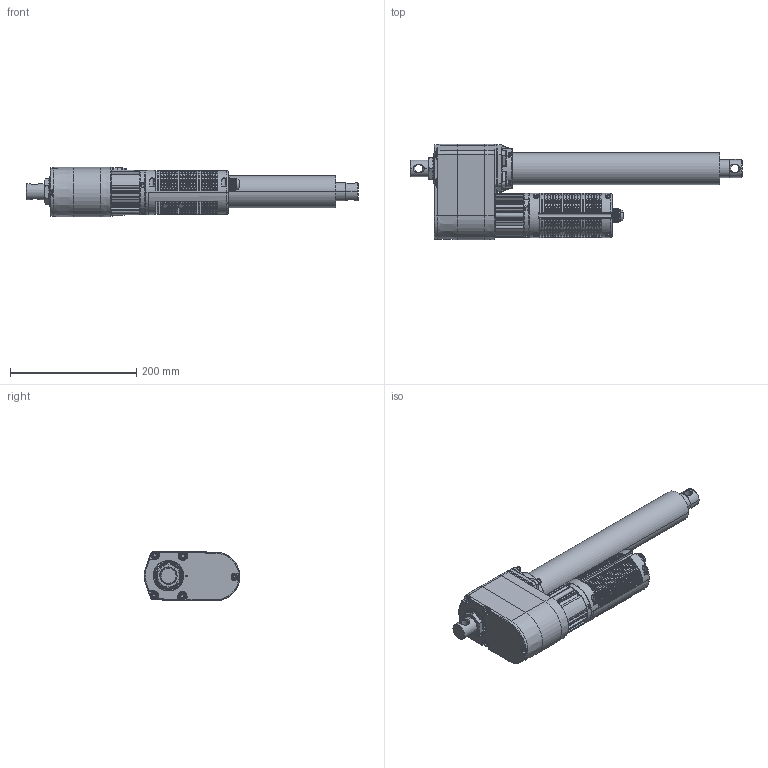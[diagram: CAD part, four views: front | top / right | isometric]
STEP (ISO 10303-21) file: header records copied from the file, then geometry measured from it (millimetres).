
FILE_DESCRIPTION (( 'STEP AP203' ), '1' );
FILE_NAME ('MK7L.STEP', '2025-07-14T02:39:37', ( '' ), ( '' ), 'SwSTEP 2.0', 'SolidWorks 2023', '' );
FILE_SCHEMA (( 'CONFIG_CONTROL_DESIGN' ));
Length unit declared in the file: metre
Products named in the file (3): MK7L; MK7L(沒內管).step; 內管
Assembly tree (2 placements, depth 2):
  MK7L
    MK7L(沒內管).step
    內管
Bounding box: 526.5 x 151.78 x 78.91 mm (x, y, z)
Volume: 2124895.2 mm3; surface area: 347317.5 mm2
Topology: 2 solids, 22 shells, 5085 faces, 11823 edges, 6714 vertices
Faces by surface type: cylinder 1685, plane 1454, bspline 672, torus 616, sphere 385, cone 273
Entity records: 194212 total; most frequent: CARTESIAN_POINT 88138, ORIENTED_EDGE 22994, DIRECTION 20468, EDGE_CURVE 11497, AXIS2_PLACEMENT_3D 8341, VERTEX_POINT 6586, EDGE_LOOP 5255, FACE_OUTER_BOUND 5086
